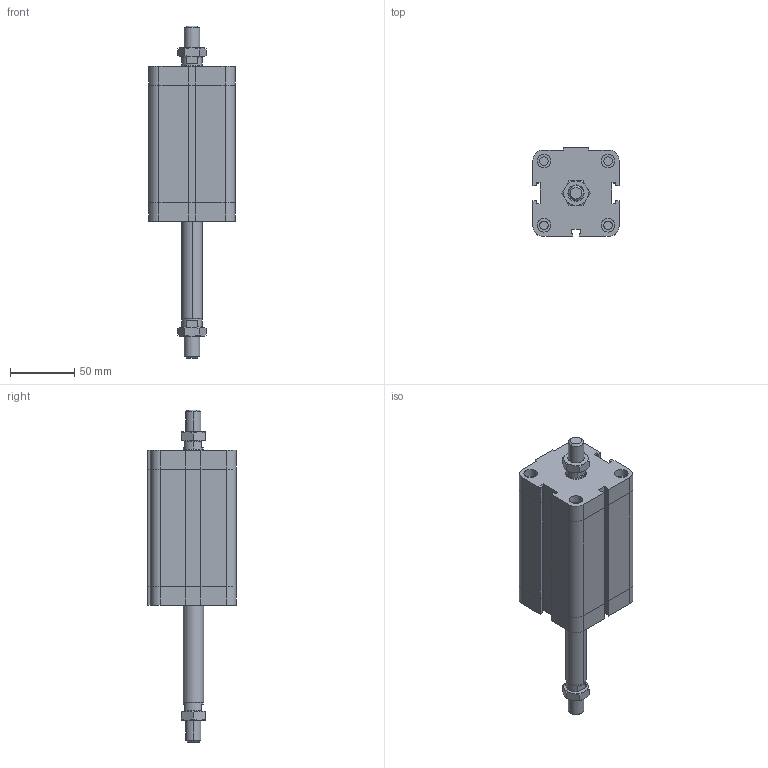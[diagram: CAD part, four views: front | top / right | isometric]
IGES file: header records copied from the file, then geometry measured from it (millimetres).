
Global section: file name: No Iges File Name specified; native system: Autodesk Inventor 2009; preprocessor: AutoDesk Inventor Iges Exporter R2009; author: maffial1; date: 20090420.200944; units: millimetre
Bounding box: 67 x 69 x 258.5 mm (x, y, z)
Volume: 533366.6 mm3; surface area: 70840.6 mm2
Topology: 4 solids, 4 shells, 260 faces, 574 edges, 342 vertices
Faces by surface type: plane 129, bspline 51, cone 38, cylinder 22, revolution 20
